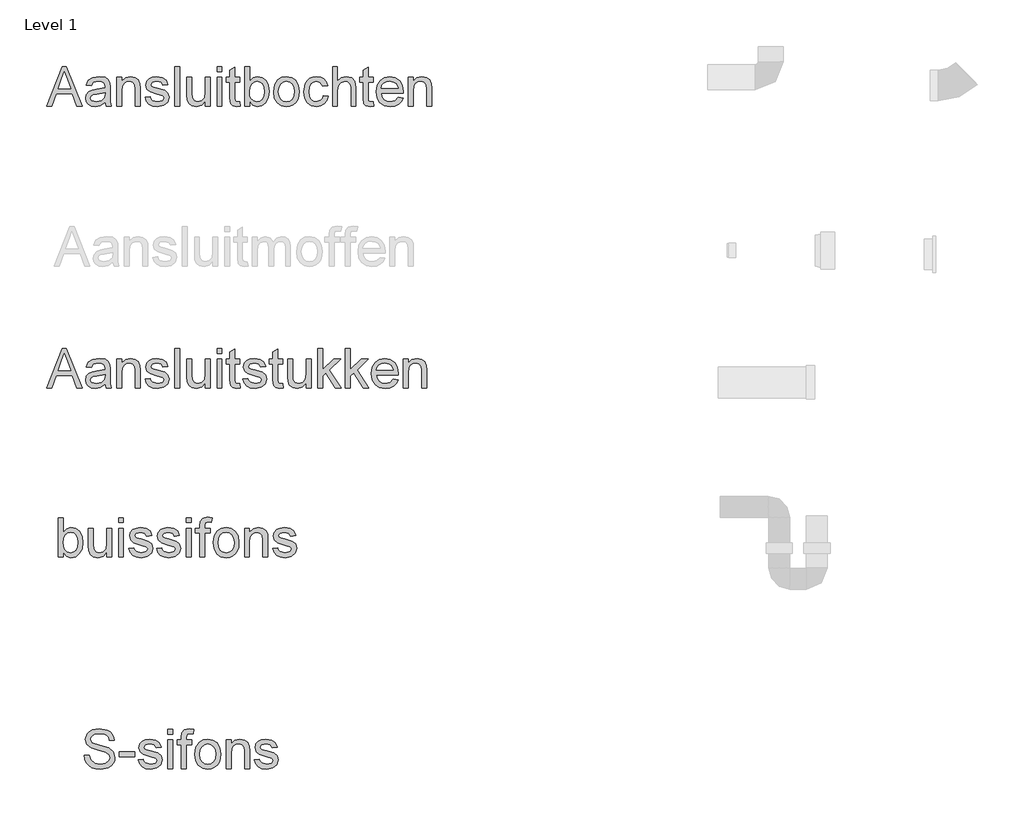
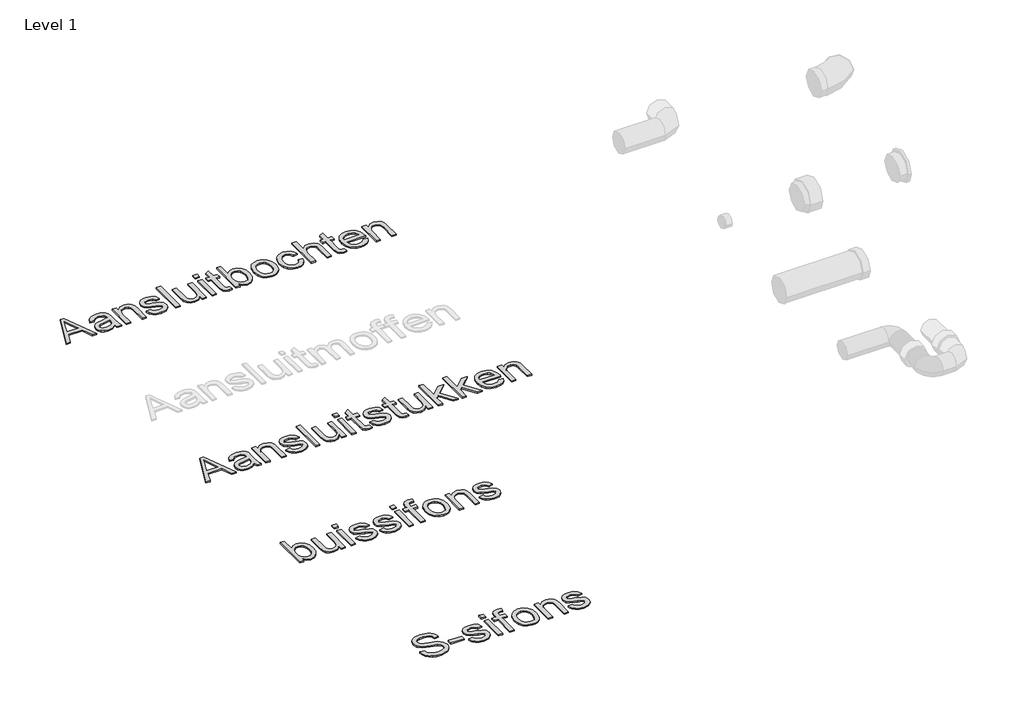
# One storey, part 8 of 9: 4 proxies.
"""IFC4 building model written with IfcOpenShell, lengths in millimetres."""

import ifcopenshell
import ifcopenshell.guid

model = None  # the IFC model being written
_history = None  # IfcOwnerHistory: only IFC2X3 demands one
_inside = {}  # id of a spatial element -> (the spatial element, [elements in it])
_under = {}  # id of a project, library or spatial element -> (it, [spatial elements below it])
_declared = {}  # id of a project -> (the project, [libraries it declares])
_typed = {}  # id of a type object -> (the type object, [elements of that type])
_made_of = {}  # id of a material, layer set ... -> (it, [elements and type objects made of it])


def new_model(schema):
    """Start an empty IFC model of exactly this schema.

    Asked for "IFC4X3", IfcOpenShell would pick the latest addendum, in which some entities
    have other attributes; the version numbers below select the first issue.
    IFC2X3 requires an IfcOwnerHistory on every rooted entity: one is made here for all.
    """
    global model, _history
    if schema == "IFC4X3":
        model = ifcopenshell.file(schema_version=(4, 3, 0, 0))
    else:
        model = ifcopenshell.file(schema=schema)
    _inside.clear()
    _under.clear()
    _declared.clear()
    _typed.clear()
    _made_of.clear()
    _history = None
    if model.schema == "IFC2X3":
        org = make("IfcOrganization", Name="unknown")
        user = make(
            "IfcPersonAndOrganization",
            ThePerson=make("IfcPerson", FamilyName="unknown"),
            TheOrganization=org,
        )
        app = make(
            "IfcApplication",
            ApplicationDeveloper=org,
            Version="unknown",
            ApplicationFullName="unknown",
            ApplicationIdentifier="unknown",
        )
        _history = make(
            "IfcOwnerHistory",
            OwningUser=user,
            OwningApplication=app,
            ChangeAction="ADDED",
            CreationDate=0,
        )
    return model


def make(cls, **values):
    """One entity of the class cls with the attributes given. An attribute that is None is left unset."""
    return model.create_entity(
        cls, **{name: value for name, value in values.items() if value is not None}
    )


def rooted(cls, **values):
    """An entity with a GlobalId (a new one), such as an element, a storey or a relation."""
    return make(cls, GlobalId=ifcopenshell.guid.new(), OwnerHistory=_history, **values)


def si_unit(unit_type, name, prefix=None):
    """IfcSIUnit, for example si_unit("LENGTHUNIT", "METRE", prefix="MILLI")."""
    return make("IfcSIUnit", UnitType=unit_type, Prefix=prefix, Name=name)


def assignment(units):
    """IfcUnitAssignment: the units of a project."""
    return None if units is None else make("IfcUnitAssignment", Units=units)


def point(xyz):
    """IfcCartesianPoint."""
    return None if xyz is None else make("IfcCartesianPoint", Coordinates=xyz)


def direction(xyz):
    """IfcDirection."""
    return None if xyz is None else make("IfcDirection", DirectionRatios=xyz)


def frame(location, z_axis=None, x_axis=None):
    """IfcAxis2Placement3D, a coordinate frame: its origin and axes. An axis left out is left unset."""
    return make(
        "IfcAxis2Placement3D",
        Location=point(location),
        Axis=direction(z_axis),
        RefDirection=direction(x_axis),
    )


def origin():
    """The frame at (0, 0, 0) with its axes left unset."""
    return frame((0.0, 0.0, 0.0))


def origin_with_axes():
    """The frame at (0, 0, 0) with the z axis (0, 0, 1) and the x axis (1, 0, 0) written out."""
    return frame((0.0, 0.0, 0.0), z_axis=(0.0, 0.0, 1.0), x_axis=(1.0, 0.0, 0.0))


def place(relative_to, where):
    """IfcLocalPlacement: puts the frame where relative to a parent placement (None: the world)."""
    return make(
        "IfcLocalPlacement", PlacementRelTo=relative_to, RelativePlacement=where
    )


def context(
    kind, dimensions, precision=None, world=None, true_north=None, identifier=None
):
    """IfcGeometricRepresentationContext, for example the 3D "Model" context."""
    return make(
        "IfcGeometricRepresentationContext",
        ContextIdentifier=identifier,
        ContextType=kind,
        CoordinateSpaceDimension=dimensions,
        Precision=precision,
        WorldCoordinateSystem=world,
        TrueNorth=true_north,
    )


def project(units=None, contexts=None):
    """IfcProject with its units and contexts."""
    return rooted(
        "IfcProject",
        Name="project",
        RepresentationContexts=contexts,
        UnitsInContext=assignment(units),
    )


def spatial(cls, under=None, at=None, **own):
    """A site, building, storey or space (cls), placed at a placement, below another one or the project."""
    s = rooted(cls, ObjectPlacement=at, **own)
    if under is not None:
        _under.setdefault(under.id(), (under, []))[1].append(s)
    return s


def polyline(points):
    """IfcPolyline through the points."""
    return make("IfcPolyline", Points=[point(p) for p in points])


def outline(outer, holes=None, kind="AREA"):
    """IfcArbitraryClosedProfileDef: a profile drawn as a closed curve; with holes, ...WithVoids."""
    if holes is None:
        return make("IfcArbitraryClosedProfileDef", ProfileType=kind, OuterCurve=outer)
    return make(
        "IfcArbitraryProfileDefWithVoids",
        ProfileType=kind,
        OuterCurve=outer,
        InnerCurves=holes,
    )


def extrude(swept, where, along, depth):
    """IfcExtrudedAreaSolid: the profile swept, set in the frame where, extruded along a direction by depth."""
    return make(
        "IfcExtrudedAreaSolid",
        SweptArea=swept,
        Position=where,
        ExtrudedDirection=direction(along),
        Depth=depth,
    )


def shape(context_of_items, identifier, shape_type, items):
    """IfcShapeRepresentation: the items that make up one representation, for example the "Body"."""
    return make(
        "IfcShapeRepresentation",
        ContextOfItems=context_of_items,
        RepresentationIdentifier=identifier,
        RepresentationType=shape_type,
        Items=items,
    )


def made_of(thing, what):
    """Note that an element or type object is made of a material, layer set ...; save() writes the relation."""
    if what is not None:
        _made_of.setdefault(what.id(), (what, []))[1].append(thing)
    return thing


def element(
    cls,
    number,
    at=None,
    inside=None,
    cuts=None,
    type_object=None,
    material=None,
    context=None,
    identifier="Body",
    shape_type=None,
    held_by="IfcProductDefinitionShape",
    body=None,
    shapes=None,
    **own,
):
    """One element of the class cls, such as IfcWall. Its Tag is "e" and its number.

    at: its placement. inside: the storey or other place that contains it. cuts: it is an
    opening in that element (IfcRelVoidsElement). A single representation is given by context,
    identifier, shape_type and body (its items); several are given by shapes. held_by: the class
    of the entity that holds the representations. save() writes the other relations.
    """
    e = rooted(cls, Tag="e%d" % number, ObjectPlacement=at, **own)
    if body is not None:
        shapes = [shape(context, identifier, shape_type, body)]
    if shapes is not None:
        e.Representation = make(held_by, Representations=shapes)
    if inside is not None:
        _inside.setdefault(inside.id(), (inside, []))[1].append(e)
    if cuts is not None:
        rooted(
            "IfcRelVoidsElement", RelatingBuildingElement=cuts, RelatedOpeningElement=e
        )
    if type_object is not None:
        _typed.setdefault(type_object.id(), (type_object, []))[1].append(e)
    return made_of(e, material)


def aggregate(whole, parts):
    """IfcRelAggregates: a whole, such as a stair, and the parts it consists of."""
    return rooted("IfcRelAggregates", RelatingObject=whole, RelatedObjects=parts)


def save(model, path):
    """Write the relations noted so far, then the file.

    IfcRelAggregates (storeys below a building ...), IfcRelContainedInSpatialStructure (elements
    in a storey), IfcRelDefinesByType, IfcRelAssociatesMaterial and IfcRelDeclares: one each for
    every whole, place, type object, material and project.
    """
    for whole, parts in _under.values():
        aggregate(whole, parts)
    for where, things in _inside.values():
        rooted(
            "IfcRelContainedInSpatialStructure",
            RelatedElements=things,
            RelatingStructure=where,
        )
    for kind, things in _typed.values():
        rooted("IfcRelDefinesByType", RelatedObjects=things, RelatingType=kind)
    for what, things in _made_of.values():
        rooted("IfcRelAssociatesMaterial", RelatedObjects=things, RelatingMaterial=what)
    for by, libraries in _declared.values():
        rooted("IfcRelDeclares", RelatingContext=by, RelatedDefinitions=libraries)
    model.write(path)


model = new_model("IFC4")

# Units and contexts
model_context = context("Model", 3, world=origin())
ifc_project = project(units=[si_unit("LENGTHUNIT", "METRE", prefix="MILLI")], contexts=[model_context])

# Site, building, storey
site = spatial("IfcSite", under=ifc_project)
building = spatial("IfcBuilding", under=site)
storey = spatial("IfcBuildingStorey", under=building, Name="Level 1", Elevation=0.0)

# Proxies
placement = place(None, origin())
element("IfcBuildingElementProxy", 1, Name="small", ObjectType="small", at=placement, inside=storey, context=model_context, shape_type="SweptSolid", body=[
    extrude(outline(polyline([(11224.0320802, 21512.6257987), (11280.1708727, 21653.2646329), (11295.1412173, 21653.2646329), (11351.2800098, 21512.6257987), (11332.7044216, 21512.6257987), (11316.6010004, 21556.5754344), (11258.676754, 21556.5754344), (11242.6076684, 21512.6257987), (11224.0320802, 21512.6257987)]), holes=[polyline([(11265.1318567, 21574.1552887), (11310.1802333, 21574.1552887), (11297.5103774, 21608.7312911), (11287.656045, 21635.6847786), (11278.9004535, 21611.7528286), (11265.1318567, 21574.1552887)])]), origin_with_axes(), (0.0, 0.0, 1.0), 5.0),
    extrude(outline(polyline([(11433.7885837, 21525.8106894), (11416.740932, 21513.8962178), (11397.9078264, 21510.4283169), (11383.2164589, 21512.5142078), (11372.3792685, 21518.7718806), (11365.696692, 21528.2742725), (11363.4691666, 21540.094321), (11366.8340605, 21554.0002604), (11375.6754912, 21564.0949424), (11387.9848227, 21569.863332), (11403.1955169, 21572.5071773), (11433.6855767, 21578.5502522), (11433.7885837, 21582.4645167), (11432.5782519, 21590.3102133), (11428.9472566, 21595.4433934), (11420.8268747, 21599.2546509), (11409.5132771, 21600.5250701), (11391.7274089, 21597.1430083), (11383.2465026, 21585.1426976), (11365.6666483, 21587.3401794), (11373.2719954, 21604.5080058), (11388.5856966, 21614.5683521), (11411.7794302, 21618.1049243), (11433.0847028, 21614.9803799), (11445.1193491, 21607.1346832), (11450.5100466, 21595.2030439), (11451.3684379, 21579.8206714), (11451.3684379, 21557.9488605), (11452.2611649, 21527.4072973), (11455.7634015, 21512.6257987), (11438.1835472, 21512.6257987), (11433.7885837, 21525.8106894)]), holes=[polyline([(11433.7885837, 21560.9703979), (11405.4273344, 21555.5797004), (11390.3024793, 21552.7298413), (11383.4525165, 21548.0945281), (11381.0490208, 21541.3304045), (11386.2852079, 21531.8194286), (11401.6504126, 21528.0081712), (11419.4362807, 21532.2142887), (11430.9043888, 21542.3948097), (11433.6855767, 21555.9917283), (11433.7885837, 21560.9703979)])]), origin_with_axes(), (0.0, 0.0, 1.0), 5.0),
    extrude(outline(polyline([(11475.5407376, 21512.6257987), (11475.5407376, 21615.9074426), (11493.1205918, 21615.9074426), (11493.1205918, 21601.4864683), (11506.5629999, 21613.9503103), (11524.9154064, 21618.1049243), (11541.5166946, 21614.7571982), (11552.84746, 21605.967271), (11558.1179827, 21593.0398977), (11559.0450454, 21576.0437496), (11559.0450454, 21512.6257987), (11541.4651911, 21512.6257987), (11541.4651911, 21573.6745895), (11539.4393876, 21589.2286403), (11532.280404, 21597.4520291), (11520.211422, 21600.5250701), (11509.9150181, 21598.7997035), (11501.1379668, 21593.6236038), (11495.1249356, 21583.6233449), (11493.1205918, 21567.4255007), (11493.1205918, 21512.6257987), (11475.5407376, 21512.6257987)])), origin_with_axes(), (0.0, 0.0, 1.0), 5.0),
    extrude(outline(polyline([(11576.6248996, 21543.3905437), (11594.2047539, 21545.5880255), (11596.9773579, 21538.0685175), (11602.3423037, 21532.5404774), (11620.9865632, 21528.0081712), (11638.909774, 21532.1627852), (11644.746835, 21541.9141106), (11638.8754383, 21549.8113108), (11620.7805493, 21554.8243161), (11594.3077609, 21563.4253971), (11582.7538137, 21573.4685756), (11578.8223814, 21587.6492002), (11581.9812615, 21600.7482518), (11590.5995104, 21610.7570946), (11601.7757654, 21615.958946), (11616.9006205, 21618.1049243), (11638.2917322, 21614.6541912), (11651.8886508, 21605.3148936), (11657.9317257, 21589.5376611), (11640.3518714, 21587.3401794), (11633.7422582, 21597.0400013), (11618.2740466, 21600.5250701), (11601.4495767, 21597.1945117), (11596.4022357, 21589.4346542), (11598.4967105, 21584.3186419), (11605.0548202, 21580.4387131), (11620.1968432, 21576.696127), (11646.0000863, 21568.4212346), (11657.9832292, 21559.0476014), (11662.3266892, 21543.7682359), (11657.2278448, 21526.9437659), (11642.5150175, 21514.7374413), (11620.7462136, 21510.4283169), (11603.0204328, 21512.5056239), (11590.0844756, 21518.7375449), (11581.4490589, 21529.0554086), (11576.6248996, 21543.3905437)])), origin_with_axes(), (0.0, 0.0, 1.0), 5.0),
    extrude(outline(polyline([(11682.1040253, 21512.6257987), (11682.1040253, 21653.2646329), (11699.6838796, 21653.2646329), (11699.6838796, 21512.6257987), (11682.1040253, 21512.6257987)])), origin_with_axes(), (0.0, 0.0, 1.0), 5.0),
    extrude(outline(polyline([(11791.9781145, 21512.6257987), (11791.9781145, 21530.3773312), (11778.2095177, 21515.4155705), (11760.2519713, 21510.4283169), (11743.7193544, 21513.9305535), (11732.3199176, 21522.7204806), (11727.0837306, 21535.6650218), (11726.053661, 21552.0087925), (11726.053661, 21615.9074426), (11743.6335153, 21615.9074426), (11743.6335153, 21560.2836849), (11744.6979205, 21542.3604741), (11751.6508902, 21531.8365965), (11764.7499418, 21528.0081712), (11779.4284334, 21531.9224356), (11789.1282553, 21542.5836558), (11791.9781145, 21562.1721458), (11791.9781145, 21615.9074426), (11809.5579688, 21615.9074426), (11809.5579688, 21512.6257987), (11791.9781145, 21512.6257987)])), origin_with_axes(), (0.0, 0.0, 1.0), 5.0),
    extrude(outline(polyline([(11833.7302684, 21635.6847786), (11833.7302684, 21653.2646329), (11851.3101227, 21653.2646329), (11851.3101227, 21635.6847786), (11833.7302684, 21635.6847786)])), origin_with_axes(), (0.0, 0.0, 1.0), 5.0),
    extrude(outline(polyline([(11833.7302684, 21512.6257987), (11833.7302684, 21615.9074426), (11851.3101227, 21615.9074426), (11851.3101227, 21512.6257987), (11833.7302684, 21512.6257987)])), origin_with_axes(), (0.0, 0.0, 1.0), 5.0),
    extrude(outline(polyline([(11915.0370945, 21527.2871225), (11917.2345763, 21512.1107639), (11904.0840212, 21510.4283169), (11889.3540261, 21513.3468474), (11882.0061964, 21521.003698), (11879.8773859, 21540.9527123), (11879.8773859, 21598.3275883), (11866.6924952, 21598.3275883), (11866.6924952, 21615.9074426), (11879.8773859, 21615.9074426), (11879.8773859, 21641.0068048), (11897.4572402, 21651.3418363), (11897.4572402, 21615.9074426), (11915.0370945, 21615.9074426), (11915.0370945, 21598.3275883), (11897.4572402, 21598.3275883), (11897.4572402, 21541.4677471), (11898.3843028, 21532.4031347), (11901.3886724, 21529.1927512), (11907.3802439, 21528.0081712), (11915.0370945, 21527.2871225)])), origin_with_axes(), (0.0, 0.0, 1.0), 5.0),
    extrude(outline(polyline([(11950.196803, 21512.6257987), (11932.6169487, 21512.6257987), (11932.6169487, 21653.2646329), (11950.196803, 21653.2646329), (11950.196803, 21601.1087762), (11962.5061346, 21613.8558873), (11977.8026679, 21618.1049243), (11995.4168579, 21614.276499), (12009.0824477, 21603.5122719), (12017.4775148, 21586.7736411), (12020.5162201, 21565.811725), (12017.3702159, 21542.3433063), (12007.9322033, 21524.8836268), (11994.0820594, 21514.0421444), (11977.699661, 21510.4283169), (11962.068355, 21515.0893818), (11950.196803, 21529.0725764), (11950.196803, 21512.6257987)]), holes=[polyline([(11950.196803, 21564.9876693), (11951.3985509, 21550.3263456), (11955.0037944, 21540.4033419), (11964.2143333, 21531.1069639), (11976.1888923, 21528.0081712), (11986.3350777, 21530.2914921), (11995.00483, 21537.1414548), (12000.9534819, 21548.5151399), (12002.9363658, 21564.3696276), (12001.0350291, 21580.455881), (11995.3310187, 21591.7008073), (11986.9316596, 21598.3190044), (11976.9442766, 21600.5250701), (11966.7980912, 21598.2417492), (11958.1283388, 21591.3917864), (11952.179687, 21580.2241153), (11950.196803, 21564.9876693)])]), origin_with_axes(), (0.0, 0.0, 1.0), 5.0),
    extrude(outline(polyline([(12035.8985926, 21564.2666206), (12039.7012662, 21589.1685529), (12051.1092868, 21606.6711519), (12065.2040724, 21615.2464812), (12082.0800457, 21618.1049243), (12100.548335, 21614.6241475), (12115.2997899, 21604.1818171), (12124.9695681, 21587.6019887), (12128.1928276, 21565.708718), (12126.767898, 21547.9486016), (12122.4931092, 21534.4289383), (12115.492928, 21524.3042126), (12105.891821, 21516.7289092), (12094.4880923, 21512.003465), (12082.0800457, 21510.4283169), (12063.3885747, 21513.8962178), (12048.6542877, 21524.2999207), (12039.0875164, 21541.2273975), (12035.8985926, 21564.2666206)]), holes=[polyline([(12053.4784469, 21564.3009563), (12055.5128343, 21548.3906731), (12061.6159966, 21537.0556157), (12070.8007838, 21530.2700323), (12082.0800457, 21528.0081712), (12093.3078042, 21530.2829082), (12102.4754236, 21537.1071192), (12108.5785859, 21548.5923951), (12110.6129733, 21564.8503267), (12108.56571, 21580.2970786), (12102.4239201, 21591.4776255), (12093.2434249, 21598.2632089), (12082.0800457, 21600.5250701), (12070.8007838, 21598.2717928), (12061.6159966, 21591.5119612), (12055.5128343, 21580.2026555), (12053.4784469, 21564.3009563)])]), origin_with_axes(), (0.0, 0.0, 1.0), 5.0),
    extrude(outline(polyline([(12213.8946172, 21549.982989), (12231.4744714, 21547.7855072), (12226.573057, 21532.1499093), (12217.3625181, 21520.3341528), (12204.70983, 21512.9047759), (12189.481968, 21510.4283169), (12170.781913, 21513.883342), (12156.1592168, 21524.2484172), (12146.7212043, 21541.0685951), (12143.5752001, 21563.8889284), (12148.9487297, 21593.0914012), (12155.7300212, 21604.0401825), (12165.3268362, 21611.8558355), (12176.8078201, 21616.5426521), (12189.2416184, 21618.1049243), (12204.0960802, 21615.958946), (12215.9719242, 21609.5210111), (12224.491458, 21599.1344761), (12229.2769897, 21585.1426976), (12211.6971354, 21582.9452158), (12203.5424178, 21596.1129387), (12189.378961, 21600.5250701), (12178.0181519, 21598.35334), (12169.000751, 21591.8381499), (12163.1164785, 21580.6275592), (12161.1550543, 21564.3696276), (12163.0735589, 21547.8928062), (12168.8290728, 21536.6435879), (12177.6833792, 21530.1670254), (12188.8982619, 21528.0081712), (12205.4652144, 21533.3988687), (12210.8945395, 21540.2402475), (12213.8946172, 21549.982989)])), origin_with_axes(), (0.0, 0.0, 1.0), 5.0),
    extrude(outline(polyline([(12246.8568439, 21512.6257987), (12246.8568439, 21653.2646329), (12264.4366982, 21653.2646329), (12264.4366982, 21601.5551397), (12278.1452076, 21613.9674782), (12295.0297649, 21618.1049243), (12314.7727653, 21613.589786), (12326.7559082, 21601.1087762), (12330.3611517, 21578.0008818), (12330.3611517, 21512.6257987), (12312.7812975, 21512.6257987), (12312.7812975, 21576.1810922), (12311.3821196, 21587.1856689), (12307.184586, 21594.7223447), (12300.4204624, 21599.0743887), (12291.3215144, 21600.5250701), (12276.917708, 21596.6108056), (12267.3037252, 21586.0010889), (12264.4366982, 21567.494172), (12264.4366982, 21512.6257987), (12246.8568439, 21512.6257987)])), origin_with_axes(), (0.0, 0.0, 1.0), 5.0),
    extrude(outline(polyline([(12391.8906417, 21527.2871225), (12394.0881235, 21512.1107639), (12380.9375684, 21510.4283169), (12366.2075734, 21513.3468474), (12358.8597436, 21521.003698), (12356.7309332, 21540.9527123), (12356.7309332, 21598.3275883), (12343.5460424, 21598.3275883), (12343.5460424, 21615.9074426), (12356.7309332, 21615.9074426), (12356.7309332, 21641.0068048), (12374.3107874, 21651.3418363), (12374.3107874, 21615.9074426), (12391.8906417, 21615.9074426), (12391.8906417, 21598.3275883), (12374.3107874, 21598.3275883), (12374.3107874, 21541.4677471), (12375.2378501, 21532.4031347), (12378.2422197, 21529.1927512), (12384.2337911, 21528.0081712), (12391.8906417, 21527.2871225)])), origin_with_axes(), (0.0, 0.0, 1.0), 5.0),
    extrude(outline(polyline([(12481.781381, 21543.3905437), (12499.0178787, 21541.1930619), (12492.8074175, 21528.2056012), (12482.8972897, 21518.4971953), (12469.510677, 21512.4455365), (12452.8707612, 21510.4283169), (12432.2436178, 21513.9090937), (12416.3719622, 21524.3514241), (12406.2515285, 21541.0771791), (12402.8780506, 21563.4082293), (12406.2858642, 21586.490372), (12416.5093048, 21603.7526214), (12432.1663625, 21614.5168486), (12451.8750273, 21618.1049243), (12470.9699423, 21614.5254325), (12486.227848, 21603.7869571), (12496.2323989, 21586.5590433), (12499.5672491, 21563.5112363), (12499.4642422, 21558.7729162), (12420.4579049, 21558.7729162), (12423.5009021, 21545.6137772), (12430.5697547, 21535.939707), (12440.7717355, 21529.9910551), (12453.2141178, 21528.0081712), (12470.4506155, 21531.682086), (12481.781381, 21543.3905437)]), holes=[polyline([(12420.4579049, 21576.3527704), (12481.9873949, 21576.3527704), (12474.948586, 21592.2845134), (12464.6993936, 21598.4649309), (12451.806356, 21600.5250701), (12439.9562638, 21598.8812507), (12430.1577268, 21593.9497925), (12423.3463917, 21586.2628983), (12420.4579049, 21576.3527704)])]), origin_with_axes(), (0.0, 0.0, 1.0), 5.0),
    extrude(outline(polyline([(12517.1471034, 21512.6257987), (12517.1471034, 21615.9074426), (12534.7269577, 21615.9074426), (12534.7269577, 21601.4864683), (12548.1693658, 21613.9503103), (12566.5217723, 21618.1049243), (12583.1230604, 21614.7571982), (12594.4538259, 21605.967271), (12599.7243486, 21593.0398977), (12600.6514112, 21576.0437496), (12600.6514112, 21512.6257987), (12583.071557, 21512.6257987), (12583.071557, 21573.6745895), (12581.0457534, 21589.2286403), (12573.8867698, 21597.4520291), (12561.8177878, 21600.5250701), (12551.5213839, 21598.7997035), (12542.7443326, 21593.6236038), (12536.7313014, 21583.6233449), (12534.7269577, 21567.4255007), (12534.7269577, 21512.6257987), (12517.1471034, 21512.6257987)])), origin_with_axes(), (0.0, 0.0, 1.0), 5.0),
])
element("IfcBuildingElementProxy", 2, Name="small", ObjectType="small", at=placement, inside=storey, context=model_context, shape_type="SweptSolid", body=[
    extrude(outline(polyline([(11224.0320802, 20504.2448723), (11280.1708727, 20644.8837065), (11295.1412173, 20644.8837065), (11351.2800098, 20504.2448723), (11332.7044216, 20504.2448723), (11316.6010004, 20548.194508), (11258.676754, 20548.194508), (11242.6076684, 20504.2448723), (11224.0320802, 20504.2448723)]), holes=[polyline([(11265.1318567, 20565.7743622), (11310.1802333, 20565.7743622), (11297.5103774, 20600.3503647), (11287.656045, 20627.3038522), (11278.9004535, 20603.3719021), (11265.1318567, 20565.7743622)])]), origin_with_axes(), (0.0, 0.0, 1.0), 5.0),
    extrude(outline(polyline([(11433.7885837, 20517.429763), (11416.740932, 20505.5152914), (11397.9078264, 20502.0473905), (11383.2164589, 20504.1332814), (11372.3792685, 20510.3909541), (11365.696692, 20519.8933461), (11363.4691666, 20531.7133946), (11366.8340605, 20545.619334), (11375.6754912, 20555.7140159), (11387.9848227, 20561.4824056), (11403.1955169, 20564.1262509), (11433.6855767, 20570.1693258), (11433.7885837, 20574.0835902), (11432.5782519, 20581.9292869), (11428.9472566, 20587.062467), (11420.8268747, 20590.8737245), (11409.5132771, 20592.1441436), (11391.7274089, 20588.7620818), (11383.2465026, 20576.7617712), (11365.6666483, 20578.9592529), (11373.2719954, 20596.1270794), (11388.5856966, 20606.1874257), (11411.7794302, 20609.7239979), (11433.0847028, 20606.5994535), (11445.1193491, 20598.7537568), (11450.5100466, 20586.8221174), (11451.3684379, 20571.439745), (11451.3684379, 20549.5679341), (11452.2611649, 20519.0263708), (11455.7634015, 20504.2448723), (11438.1835472, 20504.2448723), (11433.7885837, 20517.429763)]), holes=[polyline([(11433.7885837, 20552.5894715), (11405.4273344, 20547.198774), (11390.3024793, 20544.3489148), (11383.4525165, 20539.7136017), (11381.0490208, 20532.9494781), (11386.2852079, 20523.4385022), (11401.6504126, 20519.6272448), (11419.4362807, 20523.8333622), (11430.9043888, 20534.0138833), (11433.6855767, 20547.6108019), (11433.7885837, 20552.5894715)])]), origin_with_axes(), (0.0, 0.0, 1.0), 5.0),
    extrude(outline(polyline([(11475.5407376, 20504.2448723), (11475.5407376, 20607.5265161), (11493.1205918, 20607.5265161), (11493.1205918, 20593.1055419), (11506.5629999, 20605.5693839), (11524.9154064, 20609.7239979), (11541.5166946, 20606.3762718), (11552.84746, 20597.5863446), (11558.1179827, 20584.6589713), (11559.0450454, 20567.6628231), (11559.0450454, 20504.2448723), (11541.4651911, 20504.2448723), (11541.4651911, 20565.2936631), (11539.4393876, 20580.8477138), (11532.280404, 20589.0711027), (11520.211422, 20592.1441436), (11509.9150181, 20590.4187771), (11501.1379668, 20585.2426774), (11495.1249356, 20575.2424185), (11493.1205918, 20559.0445743), (11493.1205918, 20504.2448723), (11475.5407376, 20504.2448723)])), origin_with_axes(), (0.0, 0.0, 1.0), 5.0),
    extrude(outline(polyline([(11576.6248996, 20535.0096172), (11594.2047539, 20537.207099), (11596.9773579, 20529.687591), (11602.3423037, 20524.1595509), (11620.9865632, 20519.6272448), (11638.909774, 20523.7818588), (11644.746835, 20533.5331842), (11638.8754383, 20541.4303843), (11620.7805493, 20546.4433897), (11594.3077609, 20555.0444707), (11582.7538137, 20565.0876492), (11578.8223814, 20579.2682738), (11581.9812615, 20592.3673254), (11590.5995104, 20602.3761682), (11601.7757654, 20607.5780196), (11616.9006205, 20609.7239979), (11638.2917322, 20606.2732648), (11651.8886508, 20596.9339672), (11657.9317257, 20581.1567347), (11640.3518714, 20578.9592529), (11633.7422582, 20588.6590749), (11618.2740466, 20592.1441436), (11601.4495767, 20588.8135853), (11596.4022357, 20581.0537278), (11598.4967105, 20575.9377155), (11605.0548202, 20572.0577867), (11620.1968432, 20568.3152005), (11646.0000863, 20560.0403082), (11657.9832292, 20550.666675), (11662.3266892, 20535.3873094), (11657.2278448, 20518.5628395), (11642.5150175, 20506.3565149), (11620.7462136, 20502.0473905), (11603.0204328, 20504.1246975), (11590.0844756, 20510.3566185), (11581.4490589, 20520.6744822), (11576.6248996, 20535.0096172)])), origin_with_axes(), (0.0, 0.0, 1.0), 5.0),
    extrude(outline(polyline([(11682.1040253, 20504.2448723), (11682.1040253, 20644.8837065), (11699.6838796, 20644.8837065), (11699.6838796, 20504.2448723), (11682.1040253, 20504.2448723)])), origin_with_axes(), (0.0, 0.0, 1.0), 5.0),
    extrude(outline(polyline([(11791.9781145, 20504.2448723), (11791.9781145, 20521.9964048), (11778.2095177, 20507.0346441), (11760.2519713, 20502.0473905), (11743.7193544, 20505.5496271), (11732.3199176, 20514.3395542), (11727.0837306, 20527.2840953), (11726.053661, 20543.6278661), (11726.053661, 20607.5265161), (11743.6335153, 20607.5265161), (11743.6335153, 20551.9027585), (11744.6979205, 20533.9795477), (11751.6508902, 20523.45567), (11764.7499418, 20519.6272448), (11779.4284334, 20523.5415092), (11789.1282553, 20534.2027294), (11791.9781145, 20553.7912194), (11791.9781145, 20607.5265161), (11809.5579688, 20607.5265161), (11809.5579688, 20504.2448723), (11791.9781145, 20504.2448723)])), origin_with_axes(), (0.0, 0.0, 1.0), 5.0),
    extrude(outline(polyline([(11833.7302684, 20627.3038522), (11833.7302684, 20644.8837065), (11851.3101227, 20644.8837065), (11851.3101227, 20627.3038522), (11833.7302684, 20627.3038522)])), origin_with_axes(), (0.0, 0.0, 1.0), 5.0),
    extrude(outline(polyline([(11833.7302684, 20504.2448723), (11833.7302684, 20607.5265161), (11851.3101227, 20607.5265161), (11851.3101227, 20504.2448723), (11833.7302684, 20504.2448723)])), origin_with_axes(), (0.0, 0.0, 1.0), 5.0),
    extrude(outline(polyline([(11915.0370945, 20518.906196), (11917.2345763, 20503.7298375), (11904.0840212, 20502.0473905), (11889.3540261, 20504.965921), (11882.0061964, 20512.6227716), (11879.8773859, 20532.5717859), (11879.8773859, 20589.9466619), (11866.6924952, 20589.9466619), (11866.6924952, 20607.5265161), (11879.8773859, 20607.5265161), (11879.8773859, 20632.6258784), (11897.4572402, 20642.9609099), (11897.4572402, 20607.5265161), (11915.0370945, 20607.5265161), (11915.0370945, 20589.9466619), (11897.4572402, 20589.9466619), (11897.4572402, 20533.0868207), (11898.3843028, 20524.0222083), (11901.3886724, 20520.8118248), (11907.3802439, 20519.6272448), (11915.0370945, 20518.906196)])), origin_with_axes(), (0.0, 0.0, 1.0), 5.0),
    extrude(outline(polyline([(11926.0245034, 20535.0096172), (11943.6043577, 20537.207099), (11946.3769616, 20529.687591), (11951.7419074, 20524.1595509), (11970.3861669, 20519.6272448), (11988.3093777, 20523.7818588), (11994.1464387, 20533.5331842), (11988.2750421, 20541.4303843), (11970.180153, 20546.4433897), (11943.7073646, 20555.0444707), (11932.1534174, 20565.0876492), (11928.2219852, 20579.2682738), (11931.3808652, 20592.3673254), (11939.9991141, 20602.3761682), (11951.1753691, 20607.5780196), (11966.3002242, 20609.7239979), (11987.691336, 20606.2732648), (12001.2882545, 20596.9339672), (12007.3313294, 20581.1567347), (11989.7514751, 20578.9592529), (11983.141862, 20588.6590749), (11967.6736503, 20592.1441436), (11950.8491804, 20588.8135853), (11945.8018394, 20581.0537278), (11947.8963143, 20575.9377155), (11954.454424, 20572.0577867), (11969.5964469, 20568.3152005), (11995.39969, 20560.0403082), (12007.3828329, 20550.666675), (12011.726293, 20535.3873094), (12006.6274485, 20518.5628395), (11991.9146213, 20506.3565149), (11970.1458173, 20502.0473905), (11952.4200365, 20504.1246975), (11939.4840793, 20510.3566185), (11930.8486626, 20520.6744822), (11926.0245034, 20535.0096172)])), origin_with_axes(), (0.0, 0.0, 1.0), 5.0),
    extrude(outline(polyline([(12068.8608194, 20518.906196), (12071.0583012, 20503.7298375), (12057.9077461, 20502.0473905), (12043.177751, 20504.965921), (12035.8299213, 20512.6227716), (12033.7011108, 20532.5717859), (12033.7011108, 20589.9466619), (12020.5162201, 20589.9466619), (12020.5162201, 20607.5265161), (12033.7011108, 20607.5265161), (12033.7011108, 20632.6258784), (12051.2809651, 20642.9609099), (12051.2809651, 20607.5265161), (12068.8608194, 20607.5265161), (12068.8608194, 20589.9466619), (12051.2809651, 20589.9466619), (12051.2809651, 20533.0868207), (12052.2080277, 20524.0222083), (12055.2123974, 20520.8118248), (12061.2039688, 20519.6272448), (12068.8608194, 20518.906196)])), origin_with_axes(), (0.0, 0.0, 1.0), 5.0),
    extrude(outline(polyline([(12152.3651272, 20504.2448723), (12152.3651272, 20521.9964048), (12138.5965304, 20507.0346441), (12120.6389839, 20502.0473905), (12104.1063671, 20505.5496271), (12092.7069303, 20514.3395542), (12087.4707432, 20527.2840953), (12086.4406737, 20543.6278661), (12086.4406737, 20607.5265161), (12104.0205279, 20607.5265161), (12104.0205279, 20551.9027585), (12105.0849332, 20533.9795477), (12112.0379029, 20523.45567), (12125.1369545, 20519.6272448), (12139.8154461, 20523.5415092), (12149.515268, 20534.2027294), (12152.3651272, 20553.7912194), (12152.3651272, 20607.5265161), (12169.9449815, 20607.5265161), (12169.9449815, 20504.2448723), (12152.3651272, 20504.2448723)])), origin_with_axes(), (0.0, 0.0, 1.0), 5.0),
    extrude(outline(polyline([(12194.1172811, 20504.2448723), (12194.1172811, 20644.8837065), (12211.6971354, 20644.8837065), (12211.6971354, 20569.3109345), (12251.1144649, 20607.5265161), (12275.4241071, 20607.5265161), (12235.5260785, 20568.8302353), (12277.6215889, 20504.2448723), (12257.0888685, 20504.2448723), (12222.9248939, 20556.6067429), (12211.6971354, 20545.7223409), (12211.6971354, 20504.2448723), (12194.1172811, 20504.2448723)])), origin_with_axes(), (0.0, 0.0, 1.0), 5.0),
    extrude(outline(polyline([(12293.0039614, 20504.2448723), (12293.0039614, 20644.8837065), (12310.5838157, 20644.8837065), (12310.5838157, 20569.3109345), (12350.0011452, 20607.5265161), (12374.3107874, 20607.5265161), (12334.4127588, 20568.8302353), (12376.5082692, 20504.2448723), (12355.9755488, 20504.2448723), (12321.8115742, 20556.6067429), (12310.5838157, 20545.7223409), (12310.5838157, 20504.2448723), (12293.0039614, 20504.2448723)])), origin_with_axes(), (0.0, 0.0, 1.0), 5.0),
    extrude(outline(polyline([(12464.2015267, 20535.0096172), (12481.4380244, 20532.8121355), (12475.2275632, 20519.8246748), (12465.3174354, 20510.1162689), (12451.9308227, 20504.0646101), (12435.290907, 20502.0473905), (12414.6637635, 20505.5281673), (12398.7921079, 20515.9704977), (12388.6716742, 20532.6962526), (12385.2981964, 20555.0273029), (12388.7060099, 20578.1094455), (12398.9294505, 20595.371695), (12414.5865083, 20606.1359222), (12434.295173, 20609.7239979), (12453.390088, 20606.1445061), (12468.6479937, 20595.4060307), (12478.6525446, 20578.1781168), (12481.9873949, 20555.1303098), (12481.8843879, 20550.3919897), (12402.8780506, 20550.3919897), (12405.9210479, 20537.2328508), (12412.9899004, 20527.5587806), (12423.1918813, 20521.6101287), (12435.6342635, 20519.6272448), (12452.8707612, 20523.3011596), (12464.2015267, 20535.0096172)]), holes=[polyline([(12402.8780506, 20567.971844), (12464.4075406, 20567.971844), (12457.3687318, 20583.903587), (12447.1195394, 20590.0840045), (12434.2265017, 20592.1441436), (12422.3764095, 20590.5003243), (12412.5778726, 20585.5688661), (12405.7665374, 20577.8819718), (12402.8780506, 20567.971844)])]), origin_with_axes(), (0.0, 0.0, 1.0), 5.0),
    extrude(outline(polyline([(12499.5672491, 20504.2448723), (12499.5672491, 20607.5265161), (12517.1471034, 20607.5265161), (12517.1471034, 20593.1055419), (12530.5895115, 20605.5693839), (12548.941918, 20609.7239979), (12565.5432062, 20606.3762718), (12576.8739716, 20597.5863446), (12582.1444943, 20584.6589713), (12583.071557, 20567.6628231), (12583.071557, 20504.2448723), (12565.4917027, 20504.2448723), (12565.4917027, 20565.2936631), (12563.4658992, 20580.8477138), (12556.3069155, 20589.0711027), (12544.2379335, 20592.1441436), (12533.9415296, 20590.4187771), (12525.1644784, 20585.2426774), (12519.1514472, 20575.2424185), (12517.1471034, 20559.0445743), (12517.1471034, 20504.2448723), (12499.5672491, 20504.2448723)])), origin_with_axes(), (0.0, 0.0, 1.0), 5.0),
])
element("IfcBuildingElementProxy", 3, Name="small", ObjectType="small", at=placement, inside=storey, context=model_context, shape_type="SweptSolid", body=[
    extrude(outline(polyline([(11283.7177032, 19898.6728679), (11266.1378489, 19898.6728679), (11266.1378489, 20039.3117021), (11283.7177032, 20039.3117021), (11283.7177032, 19987.1558454), (11296.0270347, 19999.9029565), (11311.3235681, 20004.1519936), (11328.937758, 20000.3235683), (11342.6033479, 19989.5593411), (11350.998415, 19972.8207103), (11354.0371203, 19951.8587942), (11350.8911161, 19928.3903755), (11341.4531035, 19910.930696), (11327.6029595, 19900.0892136), (11311.2205611, 19896.4753861), (11295.5892551, 19901.136451), (11283.7177032, 19915.1196456), (11283.7177032, 19898.6728679)]), holes=[polyline([(11283.7177032, 19951.0347386), (11284.919451, 19936.3734148), (11288.5246946, 19926.4504111), (11297.7352335, 19917.1540331), (11309.7097924, 19914.0552404), (11319.8559778, 19916.3385613), (11328.5257302, 19923.1885241), (11334.474382, 19934.5622091), (11336.457266, 19950.4166968), (11334.5559292, 19966.5029502), (11328.8519189, 19977.7478765), (11320.4525598, 19984.3660736), (11310.4651768, 19986.5721393), (11300.3189913, 19984.2888184), (11291.649239, 19977.4388556), (11285.7005871, 19966.2711845), (11283.7177032, 19951.0347386)])]), origin_with_axes(), (0.0, 0.0, 1.0), 5.0),
    extrude(outline(polyline([(11439.7389099, 19898.6728679), (11439.7389099, 19916.4244005), (11425.9703131, 19901.4626397), (11408.0127666, 19896.4753861), (11391.4801497, 19899.9776227), (11380.080713, 19908.7675499), (11374.8445259, 19921.712091), (11373.8144563, 19938.0558618), (11373.8144563, 20001.9545118), (11391.3943106, 20001.9545118), (11391.3943106, 19946.3307541), (11392.4587158, 19928.4075433), (11399.4116856, 19917.8836657), (11412.5107371, 19914.0552404), (11427.1892287, 19917.9695048), (11436.8890507, 19928.6307251), (11439.7389099, 19948.219215), (11439.7389099, 20001.9545118), (11457.3187641, 20001.9545118), (11457.3187641, 19898.6728679), (11439.7389099, 19898.6728679)])), origin_with_axes(), (0.0, 0.0, 1.0), 5.0),
    extrude(outline(polyline([(11481.4910638, 19898.6728679), (11481.4910638, 20001.9545118), (11499.070918, 20001.9545118), (11499.070918, 19898.6728679), (11481.4910638, 19898.6728679)])), origin_with_axes(), (0.0, 0.0, 1.0), 5.0),
    extrude(outline(polyline([(11481.4910638, 20021.7318478), (11481.4910638, 20039.3117021), (11499.070918, 20039.3117021), (11499.070918, 20021.7318478), (11481.4910638, 20021.7318478)])), origin_with_axes(), (0.0, 0.0, 1.0), 5.0),
    extrude(outline(polyline([(11518.8482541, 19929.4376129), (11536.4281084, 19931.6350947), (11539.2007124, 19924.1155867), (11544.5656581, 19918.5875466), (11563.2099176, 19914.0552404), (11581.1331284, 19918.2098544), (11586.9701894, 19927.9611798), (11581.0987928, 19935.85838), (11563.0039037, 19940.8713853), (11536.5311153, 19949.4724664), (11524.9771681, 19959.5156448), (11521.0457359, 19973.6962695), (11524.204616, 19986.795321), (11532.8228648, 19996.8041639), (11543.9991198, 20002.0060153), (11559.1239749, 20004.1519936), (11580.5150867, 20000.7012605), (11594.1120052, 19991.3619629), (11600.1550801, 19975.5847304), (11582.5752259, 19973.3872486), (11575.9656127, 19983.0870705), (11560.4974011, 19986.5721393), (11543.6729311, 19983.241581), (11538.6255902, 19975.4817234), (11540.720065, 19970.3657111), (11547.2781747, 19966.4857824), (11562.4201976, 19962.7431962), (11588.2234408, 19954.4683038), (11600.2065836, 19945.0946706), (11604.5500437, 19929.8153051), (11599.4511992, 19912.9908352), (11584.738372, 19900.7845106), (11562.9695681, 19896.4753861), (11545.2437873, 19898.5526931), (11532.30783, 19904.7846141), (11523.6724133, 19915.1024778), (11518.8482541, 19929.4376129)])), origin_with_axes(), (0.0, 0.0, 1.0), 5.0),
    extrude(outline(polyline([(11617.7349344, 19929.4376129), (11635.3147887, 19931.6350947), (11638.0873927, 19924.1155867), (11643.4523384, 19918.5875466), (11662.0965979, 19914.0552404), (11680.0198087, 19918.2098544), (11685.8568697, 19927.9611798), (11679.9854731, 19935.85838), (11661.890584, 19940.8713853), (11635.4177956, 19949.4724664), (11623.8638484, 19959.5156448), (11619.9324162, 19973.6962695), (11623.0912963, 19986.795321), (11631.7095451, 19996.8041639), (11642.8858001, 20002.0060153), (11658.0106552, 20004.1519936), (11679.401767, 20000.7012605), (11692.9986855, 19991.3619629), (11699.0417604, 19975.5847304), (11681.4619062, 19973.3872486), (11674.852293, 19983.0870705), (11659.3840814, 19986.5721393), (11642.5596114, 19983.241581), (11637.5122705, 19975.4817234), (11639.6067453, 19970.3657111), (11646.164855, 19966.4857824), (11661.3068779, 19962.7431962), (11687.1101211, 19954.4683038), (11699.0932639, 19945.0946706), (11703.436724, 19929.8153051), (11698.3378796, 19912.9908352), (11683.6250523, 19900.7845106), (11661.8562484, 19896.4753861), (11644.1304676, 19898.5526931), (11631.1945103, 19904.7846141), (11622.5590936, 19915.1024778), (11617.7349344, 19929.4376129)])), origin_with_axes(), (0.0, 0.0, 1.0), 5.0),
    extrude(outline(polyline([(11723.2140601, 20021.7318478), (11723.2140601, 20039.3117021), (11740.7939143, 20039.3117021), (11740.7939143, 20021.7318478), (11723.2140601, 20021.7318478)])), origin_with_axes(), (0.0, 0.0, 1.0), 5.0),
    extrude(outline(polyline([(11723.2140601, 19898.6728679), (11723.2140601, 20001.9545118), (11740.7939143, 20001.9545118), (11740.7939143, 19898.6728679), (11723.2140601, 19898.6728679)])), origin_with_axes(), (0.0, 0.0, 1.0), 5.0),
    extrude(outline(polyline([(11771.5586593, 19898.6728679), (11771.5586593, 19984.3746575), (11756.1762868, 19984.3746575), (11756.1762868, 20001.9545118), (11771.5586593, 20001.9545118), (11771.5586593, 20012.3582146), (11773.4127846, 20027.0195384), (11782.4087256, 20037.4919125), (11800.1259225, 20041.5091839), (11816.1606724, 20039.5863873), (11813.5854985, 20023.105274), (11803.4564809, 20023.9293296), (11792.3832328, 20021.0107991), (11789.1385136, 20010.1263972), (11789.1385136, 20001.9545118), (11808.9158497, 20001.9545118), (11808.9158497, 19984.3746575), (11789.1385136, 19984.3746575), (11789.1385136, 19898.6728679), (11771.5586593, 19898.6728679)])), origin_with_axes(), (0.0, 0.0, 1.0), 5.0),
    extrude(outline(polyline([(11819.9032586, 19950.3136898), (11823.7059321, 19975.2156221), (11835.1139528, 19992.7182212), (11849.2087383, 20001.2935505), (11866.0847117, 20004.1519936), (11884.553001, 20000.6712168), (11899.3044559, 19990.2288863), (11908.9742341, 19973.6490579), (11912.1974935, 19951.7557873), (11910.7725639, 19933.9956708), (11906.4977752, 19920.4760075), (11899.4975939, 19910.3512818), (11889.896487, 19902.7759784), (11878.4927583, 19898.0505342), (11866.0847117, 19896.4753861), (11847.3932407, 19899.9432871), (11832.6589536, 19910.3469899), (11823.0921823, 19927.2744668), (11819.9032586, 19950.3136898)]), holes=[polyline([(11837.4831129, 19950.3480255), (11839.5175003, 19934.4377423), (11845.6206626, 19923.1026849), (11854.8054497, 19916.3171015), (11866.0847117, 19914.0552404), (11877.3124702, 19916.3299774), (11886.4800895, 19923.1541884), (11892.5832518, 19934.6394643), (11894.6176393, 19950.8973959), (11892.570376, 19966.3441478), (11886.428586, 19977.5246948), (11877.2480909, 19984.3102782), (11866.0847117, 19986.5721393), (11854.8054497, 19984.3188621), (11845.6206626, 19977.5590304), (11839.5175003, 19966.2497247), (11837.4831129, 19950.3480255)])]), origin_with_axes(), (0.0, 0.0, 1.0), 5.0),
    extrude(outline(polyline([(11931.9748296, 19898.6728679), (11931.9748296, 20001.9545118), (11949.5546839, 20001.9545118), (11949.5546839, 19987.5335376), (11962.997092, 19999.9973796), (11981.3494984, 20004.1519936), (11997.9507866, 20000.8042674), (12009.2815521, 19992.0143403), (12014.5520748, 19979.086967), (12015.4791374, 19962.0908188), (12015.4791374, 19898.6728679), (11997.8992831, 19898.6728679), (11997.8992831, 19959.7216587), (11995.8734796, 19975.2757095), (11988.714496, 19983.4990984), (11976.645514, 19986.5721393), (11966.3491101, 19984.8467727), (11957.5720588, 19979.6706731), (11951.5590276, 19969.6704142), (11949.5546839, 19953.4725699), (11949.5546839, 19898.6728679), (11931.9748296, 19898.6728679)])), origin_with_axes(), (0.0, 0.0, 1.0), 5.0),
    extrude(outline(polyline([(12033.0589917, 19929.4376129), (12050.638846, 19931.6350947), (12053.4114499, 19924.1155867), (12058.7763957, 19918.5875466), (12077.4206552, 19914.0552404), (12095.343866, 19918.2098544), (12101.180927, 19927.9611798), (12095.3095304, 19935.85838), (12077.2146413, 19940.8713853), (12050.7418529, 19949.4724664), (12039.1879057, 19959.5156448), (12035.2564735, 19973.6962695), (12038.4153535, 19986.795321), (12047.0336024, 19996.8041639), (12058.2098574, 20002.0060153), (12073.3347125, 20004.1519936), (12094.7258243, 20000.7012605), (12108.3227428, 19991.3619629), (12114.3658177, 19975.5847304), (12096.7859634, 19973.3872486), (12090.1763503, 19983.0870705), (12074.7081386, 19986.5721393), (12057.8836687, 19983.241581), (12052.8363277, 19975.4817234), (12054.9308026, 19970.3657111), (12061.4889123, 19966.4857824), (12076.6309352, 19962.7431962), (12102.4341783, 19954.4683038), (12114.4173212, 19945.0946706), (12118.7607813, 19929.8153051), (12113.6619368, 19912.9908352), (12098.9491096, 19900.7845106), (12077.1803056, 19896.4753861), (12059.4545248, 19898.5526931), (12046.5185676, 19904.7846141), (12037.8831509, 19915.1024778), (12033.0589917, 19929.4376129)])), origin_with_axes(), (0.0, 0.0, 1.0), 5.0),
])
element("IfcBuildingElementProxy", 4, Name="small", ObjectType="small", at=placement, inside=storey, context=model_context, shape_type="SweptSolid", body=[
    extrude(outline(polyline([(11358.7687271, 19190.1364124), (11376.3485814, 19190.1364124), (11382.0139641, 19172.5393903), (11395.8512322, 19161.4146388), (11416.9333231, 19157.1741857), (11435.3028974, 19160.3845692), (11447.1658655, 19169.208832), (11451.0629621, 19181.0031288), (11448.1444316, 19191.9733698), (11436.1956244, 19199.9564091), (11410.5983951, 19206.6690293), (11383.0440337, 19215.3387816), (11368.0908569, 19228.4206654), (11363.1636907, 19245.8975127), (11369.2582691, 19265.7950235), (11376.7563173, 19273.9325733), (11387.0613051, 19279.8383056), (11413.1220656, 19284.6281292), (11440.9339445, 19279.6151238), (11451.5951647, 19273.4261224), (11459.475197, 19264.8851287), (11464.4624506, 19254.5243455), (11466.4453346, 19242.8759752), (11448.8654803, 19242.8759752), (11445.6379289, 19253.3655172), (11438.9081409, 19260.9365287), (11428.3928472, 19265.5203383), (11413.8087787, 19267.0482749), (11398.8813536, 19265.5375062), (11388.6407451, 19261.0052), (11382.717845, 19254.3354994), (11380.743545, 19246.4125475), (11386.3402564, 19234.2233907), (11415.0448622, 19224.403394), (11446.1529637, 19215.5791312), (11463.1662797, 19201.3298353), (11468.6428163, 19181.4494922), (11467.0676683, 19170.6123018), (11462.342224, 19160.4189049), (11454.6596217, 19151.6461455), (11444.2129993, 19145.070868), (11417.6200362, 19139.5943314), (11400.3964143, 19141.0707645), (11386.2200816, 19145.5000637), (11374.9279438, 19152.8993969), (11366.3569064, 19163.2859319), (11360.854618, 19175.93862), (11358.7687271, 19190.1364124)])), origin_with_axes(), (0.0, 0.0, 1.0), 5.0),
    extrude(outline(polyline([(11484.0251888, 19183.5439671), (11484.0251888, 19201.1238213), (11538.9622334, 19201.1238213), (11538.9622334, 19183.5439671), (11484.0251888, 19183.5439671)])), origin_with_axes(), (0.0, 0.0, 1.0), 5.0),
    extrude(outline(polyline([(11552.1471242, 19172.5565581), (11569.7269784, 19174.7540399), (11572.4995824, 19167.2345319), (11577.8645282, 19161.7064918), (11596.5087877, 19157.1741857), (11614.4319985, 19161.3287997), (11620.2690595, 19171.0801251), (11614.3976628, 19178.9773252), (11596.3027738, 19183.9903306), (11569.8299854, 19192.5914116), (11558.2760382, 19202.6345901), (11554.3446059, 19216.8152147), (11557.503486, 19229.9142663), (11566.1217349, 19239.9231091), (11577.2979899, 19245.1249605), (11592.422845, 19247.2709388), (11613.8139567, 19243.8202057), (11627.4108753, 19234.4809081), (11633.4539502, 19218.7036756), (11615.8740959, 19216.5061938), (11609.2644827, 19226.2060158), (11593.7962711, 19229.6910845), (11576.9718012, 19226.3605262), (11571.9244602, 19218.6006687), (11574.018935, 19213.4846564), (11580.5770447, 19209.6047276), (11595.7190677, 19205.8621414), (11621.5223108, 19197.5872491), (11633.5054537, 19188.2136159), (11637.8489137, 19172.9342503), (11632.7500693, 19156.1097804), (11618.037242, 19143.9034558), (11596.2684381, 19139.5943314), (11578.5426573, 19141.6716384), (11565.6067001, 19147.9035594), (11556.9712834, 19158.2214231), (11552.1471242, 19172.5565581)])), origin_with_axes(), (0.0, 0.0, 1.0), 5.0),
    extrude(outline(polyline([(11657.6262498, 19141.7918132), (11657.6262498, 19245.073457), (11675.2061041, 19245.073457), (11675.2061041, 19141.7918132), (11657.6262498, 19141.7918132)])), origin_with_axes(), (0.0, 0.0, 1.0), 5.0),
    extrude(outline(polyline([(11657.6262498, 19264.8507931), (11657.6262498, 19282.4306474), (11675.2061041, 19282.4306474), (11675.2061041, 19264.8507931), (11657.6262498, 19264.8507931)])), origin_with_axes(), (0.0, 0.0, 1.0), 5.0),
    extrude(outline(polyline([(11705.9708491, 19141.7918132), (11705.9708491, 19227.4936028), (11690.5884766, 19227.4936028), (11690.5884766, 19245.073457), (11705.9708491, 19245.073457), (11705.9708491, 19255.4771599), (11707.8249743, 19270.1384836), (11716.8209154, 19280.6108578), (11734.5381123, 19284.6281292), (11750.5728622, 19282.7053326), (11747.9976882, 19266.2242192), (11737.8686706, 19267.0482749), (11726.7954225, 19264.1297444), (11723.5507033, 19253.2453424), (11723.5507033, 19245.073457), (11743.3280394, 19245.073457), (11743.3280394, 19227.4936028), (11723.5507033, 19227.4936028), (11723.5507033, 19141.7918132), (11705.9708491, 19141.7918132)])), origin_with_axes(), (0.0, 0.0, 1.0), 5.0),
    extrude(outline(polyline([(11754.3154483, 19193.4326351), (11758.1181219, 19218.3345674), (11769.5261426, 19235.8371664), (11783.6209281, 19244.4124957), (11800.4969015, 19247.2709388), (11818.9651907, 19243.790162), (11833.7166456, 19233.3478316), (11843.3864239, 19216.7680032), (11846.6096833, 19194.8747325), (11845.1847537, 19177.1146161), (11840.9099649, 19163.5949527), (11833.9097837, 19153.4702271), (11824.3086767, 19145.8949237), (11812.904948, 19141.1694795), (11800.4969015, 19139.5943314), (11781.8054304, 19143.0622323), (11767.0711434, 19153.4659351), (11757.5043721, 19170.393412), (11754.3154483, 19193.4326351)]), holes=[polyline([(11771.8953026, 19193.4669708), (11773.92969, 19177.5566876), (11780.0328523, 19166.2216302), (11789.2176395, 19159.4360468), (11800.4969015, 19157.1741857), (11811.7246599, 19159.4489227), (11820.8922793, 19166.2731337), (11826.9954416, 19177.7584096), (11829.029829, 19194.0163412), (11826.9825657, 19209.463093), (11820.8407758, 19220.64364), (11811.6602806, 19227.4292234), (11800.4969015, 19229.6910845), (11789.2176395, 19227.4378073), (11780.0328523, 19220.6779757), (11773.92969, 19209.36867), (11771.8953026, 19193.4669708)])]), origin_with_axes(), (0.0, 0.0, 1.0), 5.0),
    extrude(outline(polyline([(11866.3870193, 19141.7918132), (11866.3870193, 19245.073457), (11883.9668736, 19245.073457), (11883.9668736, 19230.6524828), (11897.4092817, 19243.1163248), (11915.7616882, 19247.2709388), (11932.3629764, 19243.9232127), (11943.6937418, 19235.1332855), (11948.9642645, 19222.2059122), (11949.8913271, 19205.209764), (11949.8913271, 19141.7918132), (11932.3114729, 19141.7918132), (11932.3114729, 19202.840604), (11930.2856694, 19218.3946547), (11923.1266857, 19226.6180436), (11911.0577037, 19229.6910845), (11900.7612998, 19227.965718), (11891.9842486, 19222.7896183), (11885.9712174, 19212.7893594), (11883.9668736, 19196.5915152), (11883.9668736, 19141.7918132), (11866.3870193, 19141.7918132)])), origin_with_axes(), (0.0, 0.0, 1.0), 5.0),
    extrude(outline(polyline([(11967.4711814, 19172.5565581), (11985.0510357, 19174.7540399), (11987.8236397, 19167.2345319), (11993.1885854, 19161.7064918), (12011.8328449, 19157.1741857), (12029.7560558, 19161.3287997), (12035.5931167, 19171.0801251), (12029.7217201, 19178.9773252), (12011.626831, 19183.9903306), (11985.1540427, 19192.5914116), (11973.6000955, 19202.6345901), (11969.6686632, 19216.8152147), (11972.8275433, 19229.9142663), (11981.4457921, 19239.9231091), (11992.6220472, 19245.1249605), (12007.7469023, 19247.2709388), (12029.138014, 19243.8202057), (12042.7349325, 19234.4809081), (12048.7780075, 19218.7036756), (12031.1981532, 19216.5061938), (12024.58854, 19226.2060158), (12009.1203284, 19229.6910845), (11992.2958585, 19226.3605262), (11987.2485175, 19218.6006687), (11989.3429923, 19213.4846564), (11995.901102, 19209.6047276), (12011.0431249, 19205.8621414), (12036.8463681, 19197.5872491), (12048.8295109, 19188.2136159), (12053.172971, 19172.9342503), (12048.0741266, 19156.1097804), (12033.3612993, 19143.9034558), (12011.5924954, 19139.5943314), (11993.8667146, 19141.6716384), (11980.9307574, 19147.9035594), (11972.2953407, 19158.2214231), (11967.4711814, 19172.5565581)])), origin_with_axes(), (0.0, 0.0, 1.0), 5.0),
])

save(model, "model.ifc")
